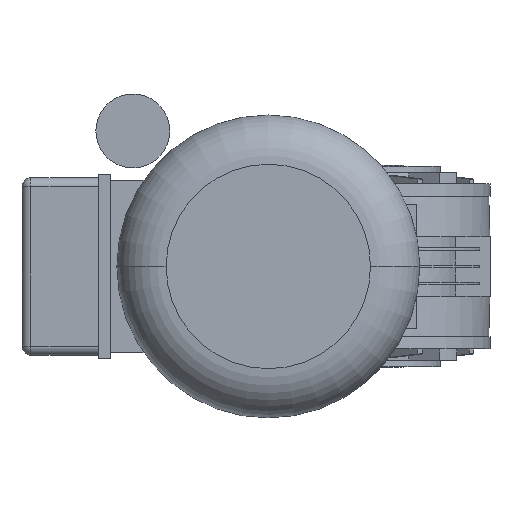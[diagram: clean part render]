
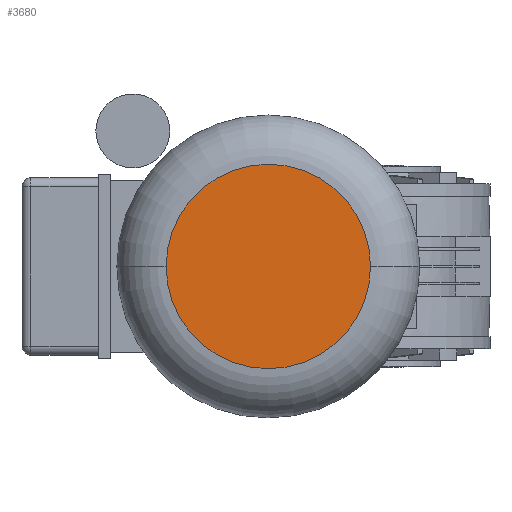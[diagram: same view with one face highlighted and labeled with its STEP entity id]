
A CAD part, left-side view. The second image highlights one B-rep face of the part: STEP entity #3680.
In plain terms, the highlighted planar face has unit normal (-1, 0, 0) as drawn and (0, 0, -1) by its records, which use the part's own axes.
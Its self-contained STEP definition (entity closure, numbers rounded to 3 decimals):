
#635 = DIRECTION ( 'NONE',  ( 0., 0., -1. ) ) ;
#1180 = CARTESIAN_POINT ( 'NONE',  ( 0., 0., -167.5 ) ) ;
#1181 = VERTEX_POINT ( 'NONE', #22647 ) ;
#1291 = DIRECTION ( 'NONE',  ( 0., 0., -1. ) ) ;
#1967 = EDGE_CURVE ( 'NONE', #1181, #12693, #25027, .T. ) ;
#3120 = CARTESIAN_POINT ( 'NONE',  ( 0., 0., -167.5 ) ) ;
#3479 = DIRECTION ( 'NONE',  ( -1., 0., 0. ) ) ;
#3579 = CARTESIAN_POINT ( 'NONE',  ( 0., 41.5, -167.5 ) ) ;
#3680 = ADVANCED_FACE ( 'NONE', ( #8936 ), #17021, .T. ) ;
#4190 = AXIS2_PLACEMENT_3D ( 'NONE', #9135, #7158, #16083 ) ;
#4884 = ORIENTED_EDGE ( 'NONE', *, *, #1967, .T. ) ;
#5579 = ORIENTED_EDGE ( 'NONE', *, *, #11031, .T. ) ;
#7158 = DIRECTION ( 'NONE',  ( 0., 0., -1. ) ) ;
#8936 = FACE_OUTER_BOUND ( 'NONE', #9289, .T. ) ;
#9135 = CARTESIAN_POINT ( 'NONE',  ( 0., 0., -167.5 ) ) ;
#9289 = EDGE_LOOP ( 'NONE', ( #5579, #4884 ) ) ;
#9608 = DIRECTION ( 'NONE',  ( 0., 1., 0. ) ) ;
#11031 = EDGE_CURVE ( 'NONE', #12693, #1181, #19962, .T. ) ;
#12693 = VERTEX_POINT ( 'NONE', #3579 ) ;
#16083 = DIRECTION ( 'NONE',  ( 0., 1., 0. ) ) ;
#17021 = PLANE ( 'NONE',  #19474 ) ;
#19474 = AXIS2_PLACEMENT_3D ( 'NONE', #1180, #1291, #3479 ) ;
#19962 = CIRCLE ( 'NONE', #27857, 41.5 ) ;
#22647 = CARTESIAN_POINT ( 'NONE',  ( 0., -41.5, -167.5 ) ) ;
#25027 = CIRCLE ( 'NONE', #4190, 41.5 ) ;
#27857 = AXIS2_PLACEMENT_3D ( 'NONE', #3120, #635, #9608 ) ;
